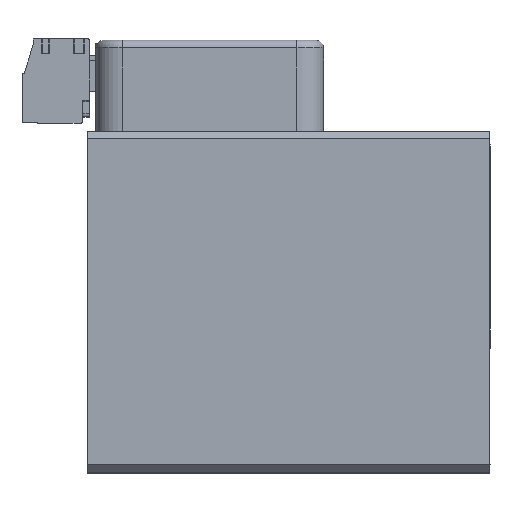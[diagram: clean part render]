
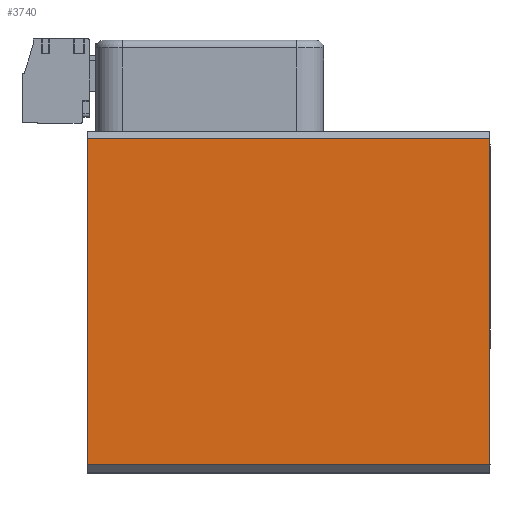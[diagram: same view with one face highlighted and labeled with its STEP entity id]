
A CAD part, top view. The second image highlights one B-rep face of the part: STEP entity #3740.
In plain terms, the highlighted planar face has unit normal (0, 0, 1).
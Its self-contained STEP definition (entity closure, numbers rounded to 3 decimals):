
#159 = ORIENTED_EDGE ( 'NONE', *, *, #19335, .F. ) ;
#570 = CARTESIAN_POINT ( 'NONE',  ( 53., -22.5, 22.5 ) ) ;
#856 = DIRECTION ( 'NONE',  ( 0., -1., 0. ) ) ;
#1486 = LINE ( 'NONE', #17171, #5179 ) ;
#2259 = PLANE ( 'NONE',  #9982 ) ;
#2425 = DIRECTION ( 'NONE',  ( -1., 0., 0. ) ) ;
#2600 = EDGE_LOOP ( 'NONE', ( #8017, #5360, #159, #4370 ) ) ;
#3282 = VERTEX_POINT ( 'NONE', #19018 ) ;
#3488 = LINE ( 'NONE', #20237, #17370 ) ;
#3740 = ADVANCED_FACE ( 'NONE', ( #18065 ), #2259, .F. ) ;
#4370 = ORIENTED_EDGE ( 'NONE', *, *, #5475, .T. ) ;
#5179 = VECTOR ( 'NONE', #856, 1000. ) ;
#5360 = ORIENTED_EDGE ( 'NONE', *, *, #14550, .T. ) ;
#5475 = EDGE_CURVE ( 'NONE', #23336, #3282, #23298, .T. ) ;
#8017 = ORIENTED_EDGE ( 'NONE', *, *, #14758, .T. ) ;
#9208 = VERTEX_POINT ( 'NONE', #13549 ) ;
#9418 = DIRECTION ( 'NONE',  ( 1., 0., 0. ) ) ;
#9982 = AXIS2_PLACEMENT_3D ( 'NONE', #570, #13231, #2425 ) ;
#12913 = CARTESIAN_POINT ( 'NONE',  ( 53., 21.5, 22.5 ) ) ;
#13059 = VERTEX_POINT ( 'NONE', #22564 ) ;
#13231 = DIRECTION ( 'NONE',  ( 0., 0., -1. ) ) ;
#13549 = CARTESIAN_POINT ( 'NONE',  ( 53., -21.5, 22.5 ) ) ;
#14550 = EDGE_CURVE ( 'NONE', #13059, #9208, #3488, .T. ) ;
#14758 = EDGE_CURVE ( 'NONE', #3282, #13059, #1486, .T. ) ;
#16763 = CARTESIAN_POINT ( 'NONE',  ( 53., 21.5, 22.5 ) ) ;
#17171 = CARTESIAN_POINT ( 'NONE',  ( 0., -22.5, 22.5 ) ) ;
#17370 = VECTOR ( 'NONE', #9418, 1000. ) ;
#18050 = CARTESIAN_POINT ( 'NONE',  ( 53., -22.5, 22.5 ) ) ;
#18065 = FACE_OUTER_BOUND ( 'NONE', #2600, .T. ) ;
#18379 = DIRECTION ( 'NONE',  ( -1., 0., 0. ) ) ;
#18487 = VECTOR ( 'NONE', #18379, 1000. ) ;
#19018 = CARTESIAN_POINT ( 'NONE',  ( 0., 21.5, 22.5 ) ) ;
#19335 = EDGE_CURVE ( 'NONE', #23336, #9208, #22889, .T. ) ;
#19845 = DIRECTION ( 'NONE',  ( 0., -1., 0. ) ) ;
#20237 = CARTESIAN_POINT ( 'NONE',  ( 53., -21.5, 22.5 ) ) ;
#22310 = VECTOR ( 'NONE', #19845, 1000. ) ;
#22564 = CARTESIAN_POINT ( 'NONE',  ( 0., -21.5, 22.5 ) ) ;
#22889 = LINE ( 'NONE', #18050, #22310 ) ;
#23298 = LINE ( 'NONE', #12913, #18487 ) ;
#23336 = VERTEX_POINT ( 'NONE', #16763 ) ;
